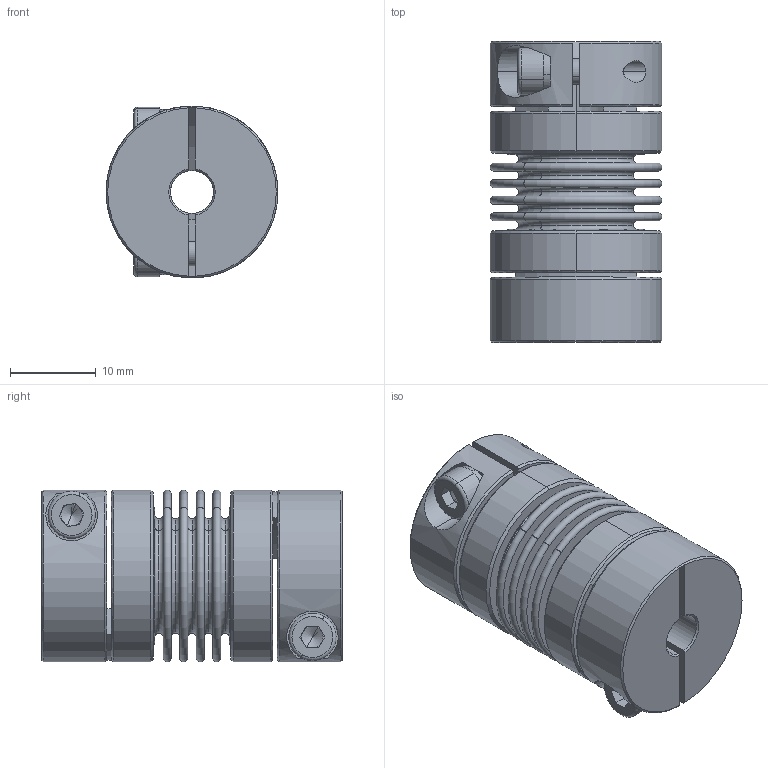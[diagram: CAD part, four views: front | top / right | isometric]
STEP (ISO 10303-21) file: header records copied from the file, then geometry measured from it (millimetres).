
FILE_DESCRIPTION (( 'STEP AP203' ), '1' );
FILE_NAME ('LB-B-D20L34-5-10.STEP', '2021-11-04T01:39:57', ( '' ), ( '' ), 'SwSTEP 2.0', 'SolidWorks 2018', '' );
FILE_SCHEMA (( 'CONFIG_CONTROL_DESIGN' ));
Length unit declared in the file: millimetre
Products named in the file (2): LB-B-D20L34-5-10; 零件4^LB-B-D20L34 波纹管联轴器-组装体
Assembly tree (1 placements, depth 2):
  LB-B-D20L34-5-10
    零件4^LB-B-D20L34 波纹管联轴器-组装体
Bounding box: 20 x 35 x 20 mm (x, y, z)
Volume: 5705.4 mm3; surface area: 9475 mm2
Topology: 1 solids, 1 shells, 246 faces, 572 edges, 354 vertices
Faces by surface type: plane 83, torus 68, cylinder 61, cone 34
Entity records: 7500 total; most frequent: CARTESIAN_POINT 1478, DIRECTION 1376, ORIENTED_EDGE 1136, AXIS2_PLACEMENT_3D 604, EDGE_CURVE 568, CIRCLE 354, VERTEX_POINT 354, EDGE_LOOP 288
